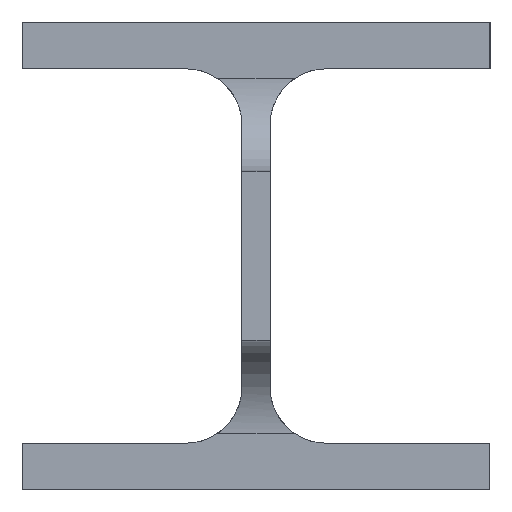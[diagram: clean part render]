
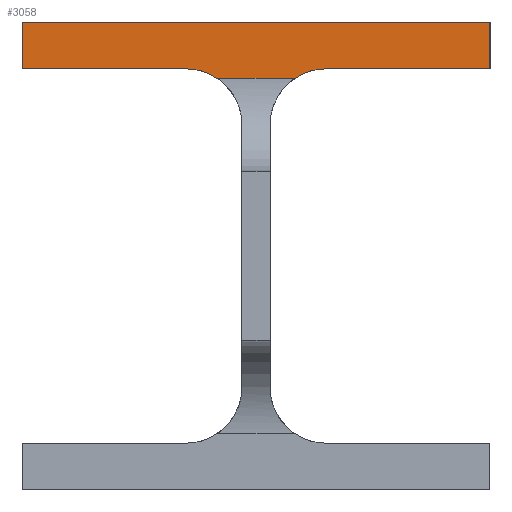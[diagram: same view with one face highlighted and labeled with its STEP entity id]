
A CAD part, left-side view. The second image highlights one B-rep face of the part: STEP entity #3058.
In plain terms, the highlighted planar face has unit normal (-1, 0, 0).
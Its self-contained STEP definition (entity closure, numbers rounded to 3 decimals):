
#27 = VERTEX_POINT ( 'NONE', #210 ) ;
#60 = LINE ( 'NONE', #661, #4105 ) ;
#61 = CARTESIAN_POINT ( 'NONE',  ( 8052., 2300., 4170. ) ) ;
#175 = CIRCLE ( 'NONE', #3891, 12. ) ;
#210 = CARTESIAN_POINT ( 'NONE',  ( 8052., 2400., 4170. ) ) ;
#317 = ORIENTED_EDGE ( 'NONE', *, *, #3025, .T. ) ;
#347 = CARTESIAN_POINT ( 'NONE',  ( 8052., 2335., 4170. ) ) ;
#508 = LINE ( 'NONE', #923, #975 ) ;
#541 = AXIS2_PLACEMENT_3D ( 'NONE', #1666, #2730, #2748 ) ;
#575 = CARTESIAN_POINT ( 'NONE',  ( 8052., 2341.633, 4168. ) ) ;
#598 = DIRECTION ( 'NONE',  ( 0., 1., 0. ) ) ;
#661 = CARTESIAN_POINT ( 'NONE',  ( 8052., 2400., 4180. ) ) ;
#705 = VERTEX_POINT ( 'NONE', #4121 ) ;
#848 = LINE ( 'NONE', #3640, #4161 ) ;
#923 = CARTESIAN_POINT ( 'NONE',  ( 8052., 1900., 4168. ) ) ;
#975 = VECTOR ( 'NONE', #598, 1000. ) ;
#1016 = VERTEX_POINT ( 'NONE', #2843 ) ;
#1035 = AXIS2_PLACEMENT_3D ( 'NONE', #2636, #1514, #1164 ) ;
#1164 = DIRECTION ( 'NONE',  ( 0., 0., 1. ) ) ;
#1195 = VERTEX_POINT ( 'NONE', #575 ) ;
#1212 = ORIENTED_EDGE ( 'NONE', *, *, #1819, .T. ) ;
#1338 = VECTOR ( 'NONE', #2594, 1000. ) ;
#1409 = VECTOR ( 'NONE', #3286, 1000. ) ;
#1514 = DIRECTION ( 'NONE',  ( -1., 0., 0. ) ) ;
#1586 = ORIENTED_EDGE ( 'NONE', *, *, #2360, .T. ) ;
#1653 = CARTESIAN_POINT ( 'NONE',  ( 8052., 2335., 4158. ) ) ;
#1666 = CARTESIAN_POINT ( 'NONE',  ( 8052., 2365., 4158. ) ) ;
#1819 = EDGE_CURVE ( 'NONE', #4383, #3437, #848, .T. ) ;
#1822 = CARTESIAN_POINT ( 'NONE',  ( 8052., 2300., 4180. ) ) ;
#1838 = CARTESIAN_POINT ( 'NONE',  ( 8052., 2300., 4170. ) ) ;
#2044 = DIRECTION ( 'NONE',  ( 0., 0., -1. ) ) ;
#2317 = ORIENTED_EDGE ( 'NONE', *, *, #3783, .T. ) ;
#2360 = EDGE_CURVE ( 'NONE', #3263, #3675, #2934, .T. ) ;
#2385 = CARTESIAN_POINT ( 'NONE',  ( 8052., 2365., 4170. ) ) ;
#2574 = VECTOR ( 'NONE', #3235, 1000. ) ;
#2594 = DIRECTION ( 'NONE',  ( 0., 1., 0. ) ) ;
#2636 = CARTESIAN_POINT ( 'NONE',  ( 8052., 1900., 4180. ) ) ;
#2714 = DIRECTION ( 'NONE',  ( 1., 0., 0. ) ) ;
#2730 = DIRECTION ( 'NONE',  ( 1., 0., 0. ) ) ;
#2748 = DIRECTION ( 'NONE',  ( 0., 0., 1. ) ) ;
#2759 = EDGE_CURVE ( 'NONE', #1016, #27, #60, .T. ) ;
#2843 = CARTESIAN_POINT ( 'NONE',  ( 8052., 2400., 4180. ) ) ;
#2857 = LINE ( 'NONE', #1822, #1338 ) ;
#2858 = EDGE_CURVE ( 'NONE', #705, #1016, #2857, .T. ) ;
#2934 = CIRCLE ( 'NONE', #541, 12. ) ;
#2998 = CARTESIAN_POINT ( 'NONE',  ( 8052., 2358.367, 4168. ) ) ;
#3025 = EDGE_CURVE ( 'NONE', #3437, #705, #3600, .T. ) ;
#3058 = ADVANCED_FACE ( 'NONE', ( #3999 ), #4018, .T. ) ;
#3063 = ORIENTED_EDGE ( 'NONE', *, *, #4221, .F. ) ;
#3151 = LINE ( 'NONE', #3680, #1409 ) ;
#3188 = EDGE_CURVE ( 'NONE', #27, #3263, #3151, .T. ) ;
#3235 = DIRECTION ( 'NONE',  ( 0., 0., 1. ) ) ;
#3238 = ORIENTED_EDGE ( 'NONE', *, *, #2858, .T. ) ;
#3263 = VERTEX_POINT ( 'NONE', #2385 ) ;
#3275 = EDGE_LOOP ( 'NONE', ( #2317, #1212, #317, #3238, #4111, #4445, #1586, #3063 ) ) ;
#3286 = DIRECTION ( 'NONE',  ( 0., -1., 0. ) ) ;
#3437 = VERTEX_POINT ( 'NONE', #61 ) ;
#3596 = DIRECTION ( 'NONE',  ( 0., -1., 0. ) ) ;
#3600 = LINE ( 'NONE', #1838, #2574 ) ;
#3640 = CARTESIAN_POINT ( 'NONE',  ( 8052., 2335., 4170. ) ) ;
#3675 = VERTEX_POINT ( 'NONE', #2998 ) ;
#3680 = CARTESIAN_POINT ( 'NONE',  ( 8052., 2400., 4170. ) ) ;
#3783 = EDGE_CURVE ( 'NONE', #1195, #4383, #175, .T. ) ;
#3891 = AXIS2_PLACEMENT_3D ( 'NONE', #1653, #2714, #4098 ) ;
#3999 = FACE_OUTER_BOUND ( 'NONE', #3275, .T. ) ;
#4018 = PLANE ( 'NONE',  #1035 ) ;
#4098 = DIRECTION ( 'NONE',  ( 0., 0., 1. ) ) ;
#4105 = VECTOR ( 'NONE', #2044, 1000. ) ;
#4111 = ORIENTED_EDGE ( 'NONE', *, *, #2759, .T. ) ;
#4121 = CARTESIAN_POINT ( 'NONE',  ( 8052., 2300., 4180. ) ) ;
#4161 = VECTOR ( 'NONE', #3596, 1000. ) ;
#4221 = EDGE_CURVE ( 'NONE', #1195, #3675, #508, .T. ) ;
#4383 = VERTEX_POINT ( 'NONE', #347 ) ;
#4445 = ORIENTED_EDGE ( 'NONE', *, *, #3188, .T. ) ;
